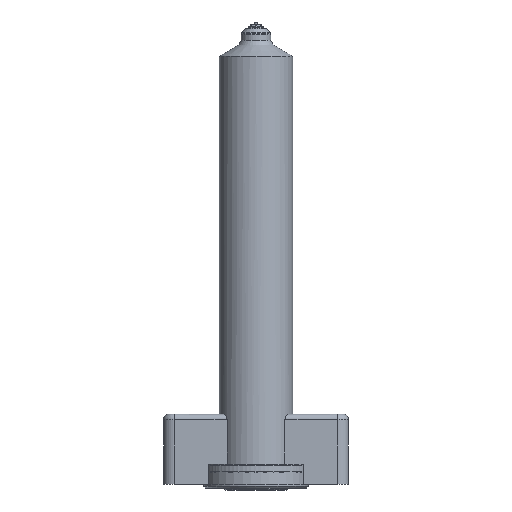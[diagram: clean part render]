
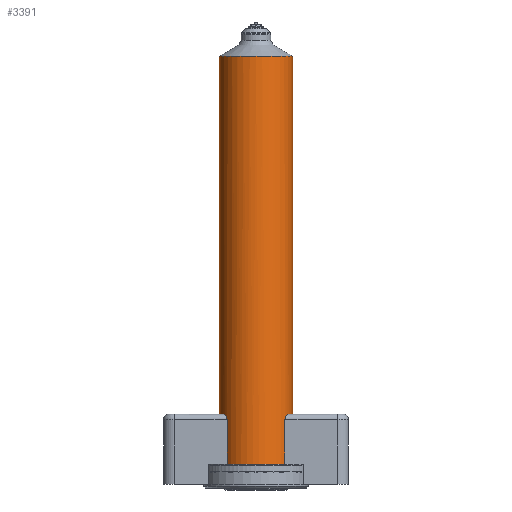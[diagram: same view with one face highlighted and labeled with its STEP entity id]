
A CAD part, front view. The second image highlights one B-rep face of the part: STEP entity #3391.
In plain terms, the highlighted cylindrical face has radius 40 mm (diameter 80 mm), a partial arc.
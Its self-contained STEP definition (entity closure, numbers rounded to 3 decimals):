
#1964 = AXIS2_PLACEMENT_3D ( 'NONE', #12986, #12984, #12983 ) ;
#2043 = AXIS2_PLACEMENT_3D ( 'NONE', #12467, #12466, #12465 ) ;
#2044 = AXIS2_PLACEMENT_3D ( 'NONE', #12436, #12434, #12432 ) ;
#2045 = AXIS2_PLACEMENT_3D ( 'NONE', #12397, #12396, #12395 ) ;
#2046 = AXIS2_PLACEMENT_3D ( 'NONE', #12394, #12393, #12391 ) ;
#3391 = ADVANCED_FACE ( 'NONE', ( #4443 ), #4422, .T. ) ;
#4422 = CYLINDRICAL_SURFACE ( 'NONE', #1964, 40. ) ;
#4443 = FACE_OUTER_BOUND ( 'NONE', #13513, .T. ) ;
#4445 = CIRCLE ( 'NONE', #2046, 40. ) ;
#4449 = CIRCLE ( 'NONE', #2045, 40. ) ;
#4450 = CIRCLE ( 'NONE', #2044, 40. ) ;
#4451 = VECTOR ( 'NONE', #12428, 1000. ) ;
#4452 = LINE ( 'NONE', #12429, #4451 ) ;
#4453 = VECTOR ( 'NONE', #12437, 1000. ) ;
#4459 = LINE ( 'NONE', #12439, #4453 ) ;
#4461 = CIRCLE ( 'NONE', #2043, 40. ) ;
#4468 = VECTOR ( 'NONE', #12534, 1000. ) ;
#4471 = VECTOR ( 'NONE', #12538, 1000. ) ;
#4472 = LINE ( 'NONE', #12536, #4468 ) ;
#4473 = LINE ( 'NONE', #12540, #4471 ) ;
#5432 = EDGE_CURVE ( 'NONE', #8584, #8599, #4473, .T. ) ;
#5433 = EDGE_CURVE ( 'NONE', #8768, #8580, #4472, .T. ) ;
#5440 = EDGE_CURVE ( 'NONE', #8686, #8584, #4461, .T. ) ;
#5441 = EDGE_CURVE ( 'NONE', #8686, #8582, #16230, .T. ) ;
#5442 = EDGE_CURVE ( 'NONE', #8582, #8648, #4459, .T. ) ;
#5443 = EDGE_CURVE ( 'NONE', #8609, #8648, #4450, .T. ) ;
#5444 = EDGE_CURVE ( 'NONE', #8609, #8672, #4452, .T. ) ;
#5445 = EDGE_CURVE ( 'NONE', #8672, #8583, #16231, .T. ) ;
#5446 = EDGE_CURVE ( 'NONE', #8768, #8583, #4449, .T. ) ;
#5447 = EDGE_CURVE ( 'NONE', #8599, #8580, #4445, .T. ) ;
#8580 = VERTEX_POINT ( 'NONE', #11082 ) ;
#8582 = VERTEX_POINT ( 'NONE', #11079 ) ;
#8583 = VERTEX_POINT ( 'NONE', #11078 ) ;
#8584 = VERTEX_POINT ( 'NONE', #11077 ) ;
#8599 = VERTEX_POINT ( 'NONE', #11062 ) ;
#8609 = VERTEX_POINT ( 'NONE', #11052 ) ;
#8648 = VERTEX_POINT ( 'NONE', #11013 ) ;
#8672 = VERTEX_POINT ( 'NONE', #10989 ) ;
#8686 = VERTEX_POINT ( 'NONE', #10977 ) ;
#8768 = VERTEX_POINT ( 'NONE', #10903 ) ;
#10903 = CARTESIAN_POINT ( 'NONE',  ( 40., 0., 82. ) ) ;
#10977 = CARTESIAN_POINT ( 'NONE',  ( -35.199, -19., 82. ) ) ;
#10989 = CARTESIAN_POINT ( 'NONE',  ( 31.225, -25., 76. ) ) ;
#11013 = CARTESIAN_POINT ( 'NONE',  ( -31.225, -25., 28. ) ) ;
#11052 = CARTESIAN_POINT ( 'NONE',  ( 31.225, -25., 28. ) ) ;
#11062 = CARTESIAN_POINT ( 'NONE',  ( -40., 0., 468.81 ) ) ;
#11077 = CARTESIAN_POINT ( 'NONE',  ( -40., 0., 82. ) ) ;
#11078 = CARTESIAN_POINT ( 'NONE',  ( 35.199, -19., 82. ) ) ;
#11079 = CARTESIAN_POINT ( 'NONE',  ( -31.225, -25., 76. ) ) ;
#11082 = CARTESIAN_POINT ( 'NONE',  ( 40., 0., 468.81 ) ) ;
#11937 = CARTESIAN_POINT ( 'NONE',  ( 31.225, -25., 76. ) ) ;
#12391 = DIRECTION ( 'NONE',  ( 1., 0., 0. ) ) ;
#12393 = DIRECTION ( 'NONE',  ( 0., 0., 1. ) ) ;
#12394 = CARTESIAN_POINT ( 'NONE',  ( 0., 0., 468.81 ) ) ;
#12395 = DIRECTION ( 'NONE',  ( -1., 0., 0. ) ) ;
#12396 = DIRECTION ( 'NONE',  ( 0., 0., -1. ) ) ;
#12397 = CARTESIAN_POINT ( 'NONE',  ( 0., 0., 82. ) ) ;
#12398 = CARTESIAN_POINT ( 'NONE',  ( 35.199, -19., 82. ) ) ;
#12399 = CARTESIAN_POINT ( 'NONE',  ( 34.787, -19.765, 82. ) ) ;
#12401 = CARTESIAN_POINT ( 'NONE',  ( 34.361, -20.494, 81.859 ) ) ;
#12403 = CARTESIAN_POINT ( 'NONE',  ( 33.708, -21.539, 81.449 ) ) ;
#12404 = CARTESIAN_POINT ( 'NONE',  ( 33.492, -21.874, 81.28 ) ) ;
#12407 = CARTESIAN_POINT ( 'NONE',  ( 33.069, -22.508, 80.882 ) ) ;
#12410 = CARTESIAN_POINT ( 'NONE',  ( 32.861, -22.809, 80.652 ) ) ;
#12412 = CARTESIAN_POINT ( 'NONE',  ( 32.463, -23.373, 80.127 ) ) ;
#12413 = CARTESIAN_POINT ( 'NONE',  ( 32.275, -23.63, 79.837 ) ) ;
#12414 = CARTESIAN_POINT ( 'NONE',  ( 32.017, -23.978, 79.355 ) ) ;
#12416 = CARTESIAN_POINT ( 'NONE',  ( 31.934, -24.088, 79.186 ) ) ;
#12417 = CARTESIAN_POINT ( 'NONE',  ( 31.78, -24.291, 78.836 ) ) ;
#12419 = CARTESIAN_POINT ( 'NONE',  ( 31.708, -24.384, 78.656 ) ) ;
#12421 = CARTESIAN_POINT ( 'NONE',  ( 31.578, -24.553, 78.282 ) ) ;
#12422 = CARTESIAN_POINT ( 'NONE',  ( 31.519, -24.629, 78.089 ) ) ;
#12423 = CARTESIAN_POINT ( 'NONE',  ( 31.415, -24.761, 77.69 ) ) ;
#12425 = CARTESIAN_POINT ( 'NONE',  ( 31.37, -24.818, 77.483 ) ) ;
#12426 = CARTESIAN_POINT ( 'NONE',  ( 31.263, -24.953, 76.861 ) ) ;
#12427 = CARTESIAN_POINT ( 'NONE',  ( 31.225, -25., 76.436 ) ) ;
#12428 = DIRECTION ( 'NONE',  ( 0., 0., 1. ) ) ;
#12429 = CARTESIAN_POINT ( 'NONE',  ( 31.225, -25., 24.409 ) ) ;
#12432 = DIRECTION ( 'NONE',  ( -1., 0., 0. ) ) ;
#12434 = DIRECTION ( 'NONE',  ( 0., 0., -1. ) ) ;
#12436 = CARTESIAN_POINT ( 'NONE',  ( 0., 0., 28. ) ) ;
#12437 = DIRECTION ( 'NONE',  ( 0., 0., -1. ) ) ;
#12439 = CARTESIAN_POINT ( 'NONE',  ( -31.225, -25., 24.409 ) ) ;
#12442 = CARTESIAN_POINT ( 'NONE',  ( -31.225, -25., 76. ) ) ;
#12444 = CARTESIAN_POINT ( 'NONE',  ( -31.225, -25., 76.218 ) ) ;
#12446 = CARTESIAN_POINT ( 'NONE',  ( -31.235, -24.988, 76.435 ) ) ;
#12447 = CARTESIAN_POINT ( 'NONE',  ( -31.272, -24.941, 76.867 ) ) ;
#12448 = CARTESIAN_POINT ( 'NONE',  ( -31.3, -24.906, 77.081 ) ) ;
#12449 = CARTESIAN_POINT ( 'NONE',  ( -31.409, -24.769, 77.704 ) ) ;
#12451 = CARTESIAN_POINT ( 'NONE',  ( -31.514, -24.635, 78.102 ) ) ;
#12452 = CARTESIAN_POINT ( 'NONE',  ( -31.78, -24.292, 78.858 ) ) ;
#12453 = CARTESIAN_POINT ( 'NONE',  ( -31.935, -24.089, 79.204 ) ) ;
#12454 = CARTESIAN_POINT ( 'NONE',  ( -32.279, -23.625, 79.842 ) ) ;
#12455 = CARTESIAN_POINT ( 'NONE',  ( -32.47, -23.362, 80.137 ) ) ;
#12457 = CARTESIAN_POINT ( 'NONE',  ( -32.866, -22.802, 80.657 ) ) ;
#12458 = CARTESIAN_POINT ( 'NONE',  ( -33.072, -22.504, 80.885 ) ) ;
#12459 = CARTESIAN_POINT ( 'NONE',  ( -33.494, -21.87, 81.282 ) ) ;
#12460 = CARTESIAN_POINT ( 'NONE',  ( -33.713, -21.532, 81.452 ) ) ;
#12461 = CARTESIAN_POINT ( 'NONE',  ( -34.362, -20.492, 81.859 ) ) ;
#12462 = CARTESIAN_POINT ( 'NONE',  ( -34.786, -19.766, 82. ) ) ;
#12463 = CARTESIAN_POINT ( 'NONE',  ( -35.199, -19., 82. ) ) ;
#12465 = DIRECTION ( 'NONE',  ( -1., 0., 0. ) ) ;
#12466 = DIRECTION ( 'NONE',  ( 0., 0., -1. ) ) ;
#12467 = CARTESIAN_POINT ( 'NONE',  ( 0., 0., 82. ) ) ;
#12534 = DIRECTION ( 'NONE',  ( 0., 0., 1. ) ) ;
#12536 = CARTESIAN_POINT ( 'NONE',  ( 40., 0., 517.739 ) ) ;
#12538 = DIRECTION ( 'NONE',  ( 0., 0., 1. ) ) ;
#12540 = CARTESIAN_POINT ( 'NONE',  ( -40., 0., 517.739 ) ) ;
#12983 = DIRECTION ( 'NONE',  ( 1., 0., 0. ) ) ;
#12984 = DIRECTION ( 'NONE',  ( 0., 0., 1. ) ) ;
#12986 = CARTESIAN_POINT ( 'NONE',  ( 0., 0., 517.739 ) ) ;
#13513 = EDGE_LOOP ( 'NONE', ( #14558, #14559, #14560, #14561, #14562, #14563, #14564, #14566, #14568, #14569 ) ) ;
#14558 = ORIENTED_EDGE ( 'NONE', *, *, #5432, .F. ) ;
#14559 = ORIENTED_EDGE ( 'NONE', *, *, #5440, .F. ) ;
#14560 = ORIENTED_EDGE ( 'NONE', *, *, #5441, .T. ) ;
#14561 = ORIENTED_EDGE ( 'NONE', *, *, #5442, .T. ) ;
#14562 = ORIENTED_EDGE ( 'NONE', *, *, #5443, .F. ) ;
#14563 = ORIENTED_EDGE ( 'NONE', *, *, #5444, .T. ) ;
#14564 = ORIENTED_EDGE ( 'NONE', *, *, #5445, .T. ) ;
#14566 = ORIENTED_EDGE ( 'NONE', *, *, #5446, .F. ) ;
#14568 = ORIENTED_EDGE ( 'NONE', *, *, #5433, .T. ) ;
#14569 = ORIENTED_EDGE ( 'NONE', *, *, #5447, .F. ) ;
#16230 = B_SPLINE_CURVE_WITH_KNOTS ( 'NONE', 3,
 ( #12463, #12462, #12461, #12460, #12459, #12458, #12457, #12455, #12454, #12453, #12452, #12451, #12449, #12448, #12447, #12446, #12444, #12442 ),
 .UNSPECIFIED., .F., .F.,
 ( 4, 2, 2, 2, 2, 2, 2, 2, 4 ),
 ( 0., 0.003, 0.004, 0.005, 0.006, 0.008, 0.009, 0.01, 0.01 ),
 .UNSPECIFIED. ) ;
#16231 = B_SPLINE_CURVE_WITH_KNOTS ( 'NONE', 3,
 ( #11937, #12427, #12426, #12425, #12423, #12422, #12421, #12419, #12417, #12416, #12414, #12413, #12412, #12410, #12407, #12404, #12403, #12401, #12399, #12398 ),
 .UNSPECIFIED., .F., .F.,
 ( 4, 2, 2, 2, 2, 2, 2, 2, 2, 4 ),
 ( 0., 0.001, 0.002, 0.003, 0.003, 0.004, 0.005, 0.006, 0.008, 0.01 ),
 .UNSPECIFIED. ) ;
